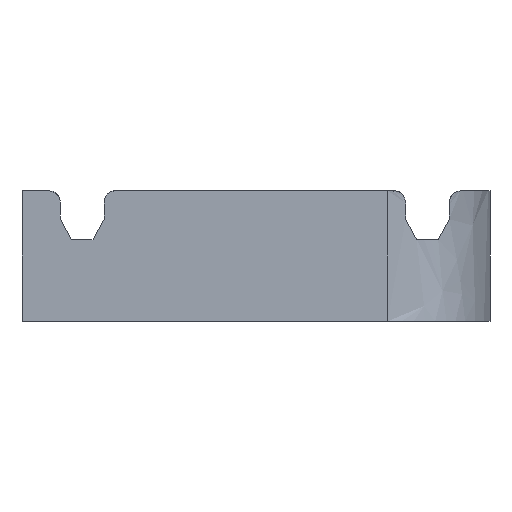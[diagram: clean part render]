
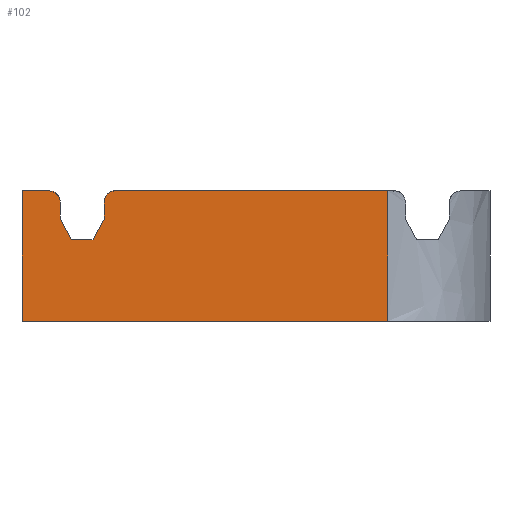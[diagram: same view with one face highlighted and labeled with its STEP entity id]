
A CAD part, front view. The second image highlights one B-rep face of the part: STEP entity #102.
In plain terms, the highlighted planar face has unit normal (0, -1, 0).
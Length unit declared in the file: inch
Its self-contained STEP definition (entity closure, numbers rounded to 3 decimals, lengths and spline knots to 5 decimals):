
#102=ADVANCED_FACE('',(#221),#222,.F.);
#221=FACE_OUTER_BOUND('',#499,.T.);
#222=PLANE('',#500);
#499=EDGE_LOOP('',(#1001,#1002,#1003,#1004,#1005,#1006,#1007,#1008,#1009,#1010,#1011,#1012));
#500=AXIS2_PLACEMENT_3D('',#1013,#1014,#1015);
#1001=ORIENTED_EDGE('',*,*,#1276,.F.);
#1002=ORIENTED_EDGE('',*,*,#1277,.F.);
#1003=ORIENTED_EDGE('',*,*,#1258,.F.);
#1004=ORIENTED_EDGE('',*,*,#1278,.F.);
#1005=ORIENTED_EDGE('',*,*,#1252,.F.);
#1006=ORIENTED_EDGE('',*,*,#1279,.F.);
#1007=ORIENTED_EDGE('',*,*,#1280,.F.);
#1008=ORIENTED_EDGE('',*,*,#1281,.F.);
#1009=ORIENTED_EDGE('',*,*,#1282,.F.);
#1010=ORIENTED_EDGE('',*,*,#1228,.F.);
#1011=ORIENTED_EDGE('',*,*,#1233,.F.);
#1012=ORIENTED_EDGE('',*,*,#1264,.F.);
#1013=CARTESIAN_POINT('',(0.67143,0.,-0.18376));
#1014=DIRECTION('',(-0.0,1.0,0.0));
#1015=DIRECTION('',(1.0,0.0,0.0));
#1228=EDGE_CURVE('',#1416,#1418,#1419,.T.);
#1233=EDGE_CURVE('',#1424,#1416,#1426,.T.);
#1252=EDGE_CURVE('',#1452,#1454,#1455,.T.);
#1258=EDGE_CURVE('',#1461,#1463,#1464,.T.);
#1264=EDGE_CURVE('',#1470,#1424,#1472,.T.);
#1276=EDGE_CURVE('',#1489,#1470,#1490,.T.);
#1277=EDGE_CURVE('',#1463,#1489,#1491,.T.);
#1278=EDGE_CURVE('',#1454,#1461,#1492,.T.);
#1279=EDGE_CURVE('',#1493,#1452,#1494,.T.);
#1280=EDGE_CURVE('',#1495,#1493,#1496,.T.);
#1281=EDGE_CURVE('',#1497,#1495,#1498,.T.);
#1282=EDGE_CURVE('',#1418,#1497,#1499,.T.);
#1416=VERTEX_POINT('',#1757);
#1418=VERTEX_POINT('',#1760);
#1419=LINE('',#1761,#1762);
#1424=VERTEX_POINT('',#1769);
#1426=LINE('',#1772,#1773);
#1452=VERTEX_POINT('',#1827);
#1454=VERTEX_POINT('',#1830);
#1455=LINE('',#1831,#1832);
#1461=VERTEX_POINT('',#1853);
#1463=VERTEX_POINT('',#1856);
#1464=B_SPLINE_CURVE_WITH_KNOTS('',3,(#1857,#1858,#1859,#1860),.UNSPECIFIED.,.F.,.F.,(4,4),(0.0,1.0),.UNSPECIFIED.);
#1470=VERTEX_POINT('',#1873);
#1472=LINE('',#1878,#1879);
#1489=VERTEX_POINT('',#1932);
#1490=LINE('',#1933,#1934);
#1491=LINE('',#1935,#1936);
#1492=LINE('',#1937,#1938);
#1493=VERTEX_POINT('',#1939);
#1494=LINE('',#1940,#1941);
#1495=VERTEX_POINT('',#1942);
#1496=LINE('',#1943,#1944);
#1497=VERTEX_POINT('',#1945);
#1498=LINE('',#1946,#1947);
#1499=B_SPLINE_CURVE_WITH_KNOTS('',3,(#1948,#1949,#1950,#1951),.UNSPECIFIED.,.F.,.F.,(4,4),(0.0,1.0),.UNSPECIFIED.);
#1757=CARTESIAN_POINT('',(0.0,0.,0.0));
#1760=CARTESIAN_POINT('',(0.07231,0.,0.0));
#1761=CARTESIAN_POINT('',(0.0,0.,0.0));
#1762=VECTOR('',#2144,1.0);
#1769=CARTESIAN_POINT('',(0.0,0.,-0.37522));
#1772=CARTESIAN_POINT('',(0.0,0.,-0.37522));
#1773=VECTOR('',#2148,1.0);
#1827=CARTESIAN_POINT('',(0.20384,0.,-0.14101));
#1830=CARTESIAN_POINT('',(0.23553,0.,-0.08198));
#1831=CARTESIAN_POINT('',(0.20384,0.,-0.14101));
#1832=VECTOR('',#2157,1.0);
#1853=CARTESIAN_POINT('',(0.23553,0.,-0.03944));
#1856=CARTESIAN_POINT('',(0.27408,0.,0.0));
#1857=CARTESIAN_POINT('',(0.23553,0.,-0.03944));
#1858=CARTESIAN_POINT('',(0.23553,0.,-0.02395));
#1859=CARTESIAN_POINT('',(0.24251,0.,0.0));
#1860=CARTESIAN_POINT('',(0.27408,0.,0.0));
#1873=CARTESIAN_POINT('',(1.04932,0.,-0.37522));
#1878=CARTESIAN_POINT('',(1.34356,0.,-0.37522));
#1879=VECTOR('',#2161,1.0);
#1932=CARTESIAN_POINT('',(1.04932,0.,0.0));
#1933=CARTESIAN_POINT('',(1.04932,0.,0.13931));
#1934=VECTOR('',#2166,1.0);
#1935=CARTESIAN_POINT('',(0.27408,0.,0.0));
#1936=VECTOR('',#2167,1.0);
#1937=CARTESIAN_POINT('',(0.23553,0.,-0.08198));
#1938=VECTOR('',#2168,1.0);
#1939=CARTESIAN_POINT('',(0.14178,0.,-0.14101));
#1940=CARTESIAN_POINT('',(0.14178,0.,-0.14101));
#1941=VECTOR('',#2169,1.0);
#1942=CARTESIAN_POINT('',(0.11053,0.,-0.08198));
#1943=CARTESIAN_POINT('',(0.11053,0.,-0.08198));
#1944=VECTOR('',#2170,1.0);
#1945=CARTESIAN_POINT('',(0.11053,0.,-0.03944));
#1946=CARTESIAN_POINT('',(0.11053,0.,-0.03944));
#1947=VECTOR('',#2171,1.0);
#1948=CARTESIAN_POINT('',(0.07231,0.,0.0));
#1949=CARTESIAN_POINT('',(0.10388,0.,0.0));
#1950=CARTESIAN_POINT('',(0.11053,0.,-0.02395));
#1951=CARTESIAN_POINT('',(0.11053,0.,-0.03944));
#2144=DIRECTION('',(1.0,0.0,0.0));
#2148=DIRECTION('',(0.0,0.0,1.0));
#2157=DIRECTION('',(0.473,0.0,0.881));
#2161=DIRECTION('',(-1.0,0.0,0.0));
#2166=DIRECTION('',(0.0,0.0,-1.0));
#2167=DIRECTION('',(1.0,0.0,0.0));
#2168=DIRECTION('',(0.0,0.0,1.0));
#2169=DIRECTION('',(1.0,0.0,0.0));
#2170=DIRECTION('',(0.468,0.0,-0.884));
#2171=DIRECTION('',(0.0,0.0,-1.0));
